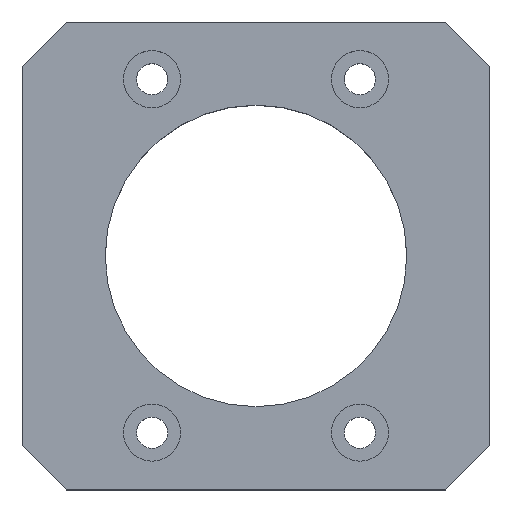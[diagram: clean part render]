
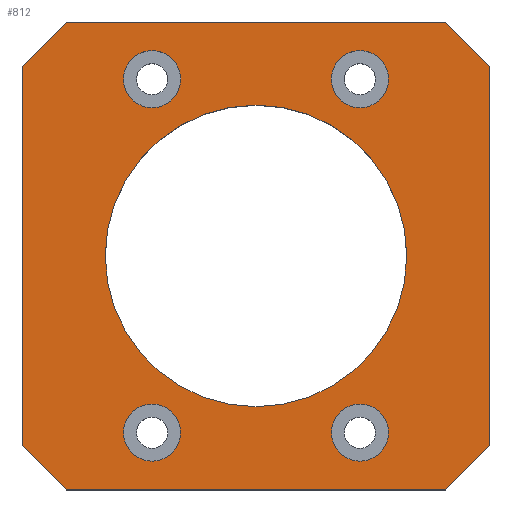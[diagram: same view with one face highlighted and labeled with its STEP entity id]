
A CAD part, top view. The second image highlights one B-rep face of the part: STEP entity #812.
In plain terms, the highlighted planar face has unit normal (0, 0, 1).
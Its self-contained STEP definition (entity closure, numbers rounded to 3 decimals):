
#121=DIRECTION('',(-0.707,0.707,0.));
#122=VECTOR('',#121,12.021);
#123=CARTESIAN_POINT('',(45.,36.5,22.));
#124=LINE('',#123,#122);
#125=DIRECTION('',(0.,1.,0.));
#126=VECTOR('',#125,73.);
#127=CARTESIAN_POINT('',(45.,-36.5,22.));
#128=LINE('',#127,#126);
#129=DIRECTION('',(0.707,0.707,0.));
#130=VECTOR('',#129,12.021);
#131=CARTESIAN_POINT('',(36.5,-45.,22.));
#132=LINE('',#131,#130);
#133=DIRECTION('',(1.,0.,0.));
#134=VECTOR('',#133,73.);
#135=CARTESIAN_POINT('',(-36.5,-45.,22.));
#136=LINE('',#135,#134);
#137=DIRECTION('',(0.707,-0.707,0.));
#138=VECTOR('',#137,12.021);
#139=CARTESIAN_POINT('',(-45.,-36.5,22.));
#140=LINE('',#139,#138);
#141=DIRECTION('',(0.,-1.,0.));
#142=VECTOR('',#141,73.);
#143=CARTESIAN_POINT('',(-45.,36.5,22.));
#144=LINE('',#143,#142);
#145=DIRECTION('',(-0.707,-0.707,0.));
#146=VECTOR('',#145,12.021);
#147=CARTESIAN_POINT('',(-36.5,45.,22.));
#148=LINE('',#147,#146);
#149=DIRECTION('',(-1.,0.,0.));
#150=VECTOR('',#149,73.);
#151=CARTESIAN_POINT('',(36.5,45.,22.));
#152=LINE('',#151,#150);
#153=CARTESIAN_POINT('',(0.,0.,22.));
#154=DIRECTION('',(0.,0.,1.));
#155=DIRECTION('',(1.,0.,0.));
#156=AXIS2_PLACEMENT_3D('',#153,#154,#155);
#158=CARTESIAN_POINT('',(0.,0.,22.));
#159=DIRECTION('',(0.,0.,1.));
#160=DIRECTION('',(-1.,0.,0.));
#161=AXIS2_PLACEMENT_3D('',#158,#159,#160);
#163=CARTESIAN_POINT('',(20.,34.,22.));
#164=DIRECTION('',(0.,0.,1.));
#165=DIRECTION('',(-1.,0.,0.));
#166=AXIS2_PLACEMENT_3D('',#163,#164,#165);
#168=CARTESIAN_POINT('',(20.,34.,22.));
#169=DIRECTION('',(0.,0.,1.));
#170=DIRECTION('',(1.,0.,0.));
#171=AXIS2_PLACEMENT_3D('',#168,#169,#170);
#173=CARTESIAN_POINT('',(-20.,34.,22.));
#174=DIRECTION('',(0.,0.,1.));
#175=DIRECTION('',(-1.,0.,0.));
#176=AXIS2_PLACEMENT_3D('',#173,#174,#175);
#178=CARTESIAN_POINT('',(-20.,34.,22.));
#179=DIRECTION('',(0.,0.,1.));
#180=DIRECTION('',(1.,0.,0.));
#181=AXIS2_PLACEMENT_3D('',#178,#179,#180);
#183=CARTESIAN_POINT('',(-20.,-34.,22.));
#184=DIRECTION('',(0.,0.,1.));
#185=DIRECTION('',(-1.,0.,0.));
#186=AXIS2_PLACEMENT_3D('',#183,#184,#185);
#188=CARTESIAN_POINT('',(-20.,-34.,22.));
#189=DIRECTION('',(0.,0.,1.));
#190=DIRECTION('',(1.,0.,0.));
#191=AXIS2_PLACEMENT_3D('',#188,#189,#190);
#193=CARTESIAN_POINT('',(20.,-34.,22.));
#194=DIRECTION('',(0.,0.,1.));
#195=DIRECTION('',(-1.,0.,0.));
#196=AXIS2_PLACEMENT_3D('',#193,#194,#195);
#198=CARTESIAN_POINT('',(20.,-34.,22.));
#199=DIRECTION('',(0.,0.,1.));
#200=DIRECTION('',(1.,0.,0.));
#201=AXIS2_PLACEMENT_3D('',#198,#199,#200);
#457=CARTESIAN_POINT('',(45.,36.5,22.));
#458=VERTEX_POINT('',#457);
#459=CARTESIAN_POINT('',(36.5,45.,22.));
#460=VERTEX_POINT('',#459);
#465=CARTESIAN_POINT('',(-36.5,45.,22.));
#466=VERTEX_POINT('',#465);
#467=CARTESIAN_POINT('',(-45.,36.5,22.));
#468=VERTEX_POINT('',#467);
#473=CARTESIAN_POINT('',(-45.,-36.5,22.));
#474=VERTEX_POINT('',#473);
#475=CARTESIAN_POINT('',(-36.5,-45.,22.));
#476=VERTEX_POINT('',#475);
#481=CARTESIAN_POINT('',(36.5,-45.,22.));
#482=VERTEX_POINT('',#481);
#483=CARTESIAN_POINT('',(45.,-36.5,22.));
#484=VERTEX_POINT('',#483);
#517=CARTESIAN_POINT('',(29.,0.,22.));
#518=CARTESIAN_POINT('',(-29.,0.,22.));
#519=VERTEX_POINT('',#517);
#520=VERTEX_POINT('',#518);
#557=CARTESIAN_POINT('',(14.5,34.,22.));
#558=CARTESIAN_POINT('',(25.5,34.,22.));
#559=VERTEX_POINT('',#557);
#560=VERTEX_POINT('',#558);
#561=CARTESIAN_POINT('',(-25.5,34.,22.));
#562=CARTESIAN_POINT('',(-14.5,34.,22.));
#563=VERTEX_POINT('',#561);
#564=VERTEX_POINT('',#562);
#565=CARTESIAN_POINT('',(-25.5,-34.,22.));
#566=CARTESIAN_POINT('',(-14.5,-34.,22.));
#567=VERTEX_POINT('',#565);
#568=VERTEX_POINT('',#566);
#569=CARTESIAN_POINT('',(14.5,-34.,22.));
#570=CARTESIAN_POINT('',(25.5,-34.,22.));
#571=VERTEX_POINT('',#569);
#572=VERTEX_POINT('',#570);
#767=CARTESIAN_POINT('',(0.,0.,22.));
#768=DIRECTION('',(0.,0.,1.));
#769=DIRECTION('',(1.,0.,0.));
#770=AXIS2_PLACEMENT_3D('',#767,#768,#769);
#771=PLANE('',#770);
#772=ORIENTED_EDGE('',*,*,#663,.F.);
#773=ORIENTED_EDGE('',*,*,#679,.F.);
#774=ORIENTED_EDGE('',*,*,#692,.F.);
#775=ORIENTED_EDGE('',*,*,#705,.F.);
#776=ORIENTED_EDGE('',*,*,#720,.F.);
#777=ORIENTED_EDGE('',*,*,#733,.F.);
#778=ORIENTED_EDGE('',*,*,#748,.F.);
#779=ORIENTED_EDGE('',*,*,#760,.F.);
#780=EDGE_LOOP('',(#772,#773,#774,#775,#776,#777,#778,#779));
#781=FACE_OUTER_BOUND('',#780,.F.);
#783=ORIENTED_EDGE('',*,*,#782,.T.);
#785=ORIENTED_EDGE('',*,*,#784,.T.);
#786=EDGE_LOOP('',(#783,#785));
#787=FACE_BOUND('',#786,.F.);
#789=ORIENTED_EDGE('',*,*,#788,.T.);
#791=ORIENTED_EDGE('',*,*,#790,.T.);
#792=EDGE_LOOP('',(#789,#791));
#793=FACE_BOUND('',#792,.F.);
#795=ORIENTED_EDGE('',*,*,#794,.T.);
#797=ORIENTED_EDGE('',*,*,#796,.T.);
#798=EDGE_LOOP('',(#795,#797));
#799=FACE_BOUND('',#798,.F.);
#801=ORIENTED_EDGE('',*,*,#800,.T.);
#803=ORIENTED_EDGE('',*,*,#802,.T.);
#804=EDGE_LOOP('',(#801,#803));
#805=FACE_BOUND('',#804,.F.);
#807=ORIENTED_EDGE('',*,*,#806,.T.);
#809=ORIENTED_EDGE('',*,*,#808,.T.);
#810=EDGE_LOOP('',(#807,#809));
#811=FACE_BOUND('',#810,.F.);
#157=CIRCLE('',#156,29.);
#162=CIRCLE('',#161,29.);
#167=CIRCLE('',#166,5.5);
#172=CIRCLE('',#171,5.5);
#177=CIRCLE('',#176,5.5);
#182=CIRCLE('',#181,5.5);
#187=CIRCLE('',#186,5.5);
#192=CIRCLE('',#191,5.5);
#197=CIRCLE('',#196,5.5);
#202=CIRCLE('',#201,5.5);
#663=EDGE_CURVE('',#458,#460,#124,.T.);
#679=EDGE_CURVE('',#484,#458,#128,.T.);
#692=EDGE_CURVE('',#482,#484,#132,.T.);
#705=EDGE_CURVE('',#476,#482,#136,.T.);
#720=EDGE_CURVE('',#474,#476,#140,.T.);
#733=EDGE_CURVE('',#468,#474,#144,.T.);
#748=EDGE_CURVE('',#466,#468,#148,.T.);
#760=EDGE_CURVE('',#460,#466,#152,.T.);
#782=EDGE_CURVE('',#519,#520,#157,.T.);
#784=EDGE_CURVE('',#520,#519,#162,.T.);
#788=EDGE_CURVE('',#559,#560,#167,.T.);
#790=EDGE_CURVE('',#560,#559,#172,.T.);
#794=EDGE_CURVE('',#563,#564,#177,.T.);
#796=EDGE_CURVE('',#564,#563,#182,.T.);
#800=EDGE_CURVE('',#567,#568,#187,.T.);
#802=EDGE_CURVE('',#568,#567,#192,.T.);
#806=EDGE_CURVE('',#571,#572,#197,.T.);
#808=EDGE_CURVE('',#572,#571,#202,.T.);
#812=ADVANCED_FACE('',(#781,#787,#793,#799,#805,#811),#771,.T.);
